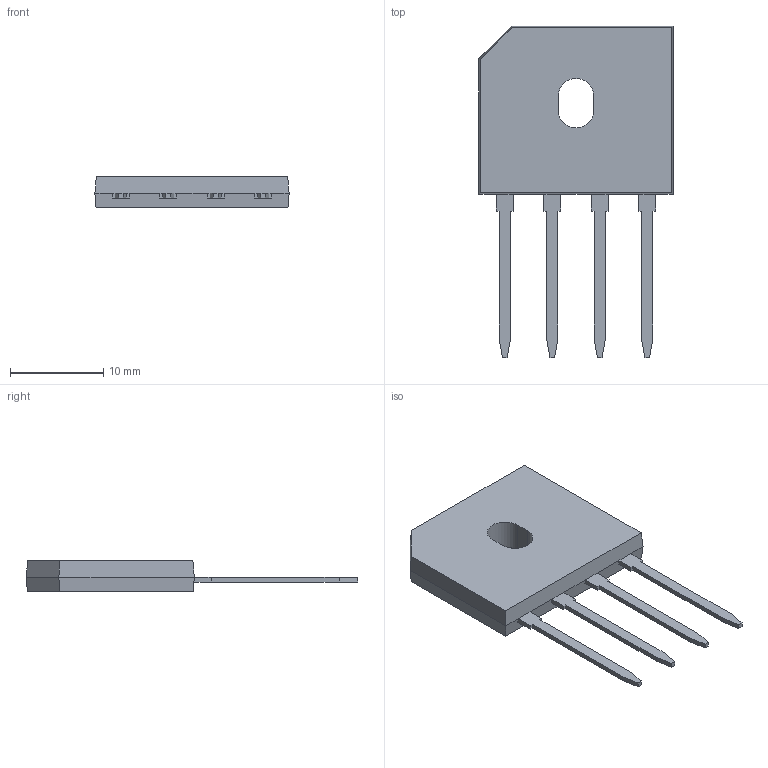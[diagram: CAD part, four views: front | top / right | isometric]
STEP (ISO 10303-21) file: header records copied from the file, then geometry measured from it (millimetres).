
FILE_DESCRIPTION(/* description */ (''),/* implementation_level */ '2;1');
FILE_NAME(/* name */ 'P28-GBU-.stp',/* time_stamp */ '2018-03-02T15:29:26+01:00',/* author */ (''),/* organization */ (''),/* preprocessor_version */ 'ST-DEVELOPER v14',/* originating_system */ 'SIEMENS PLM Software NX 8.0',/* authorisation */ '');
FILE_SCHEMA (('CONFIG_CONTROL_DESIGN'));
Length unit declared in the file: millimetre
Products named in the file (1): Steptest
Bounding box: 20.8 x 35.5 x 3.3 mm (x, y, z)
Volume: 1183.2 mm3; surface area: 1248.2 mm2
Topology: 1 solids, 5 shells, 84 faces, 209 edges, 135 vertices
Faces by surface type: plane 82, cylinder 2
Entity records: 2513 total; most frequent: CARTESIAN_POINT 429, ORIENTED_EDGE 418, DIRECTION 383, EDGE_CURVE 209, LINE 205, VECTOR 205, VERTEX_POINT 135, AXIS2_PLACEMENT_3D 89
